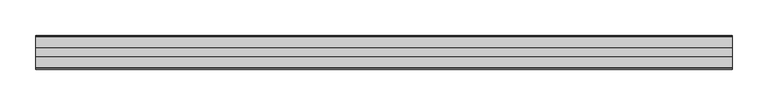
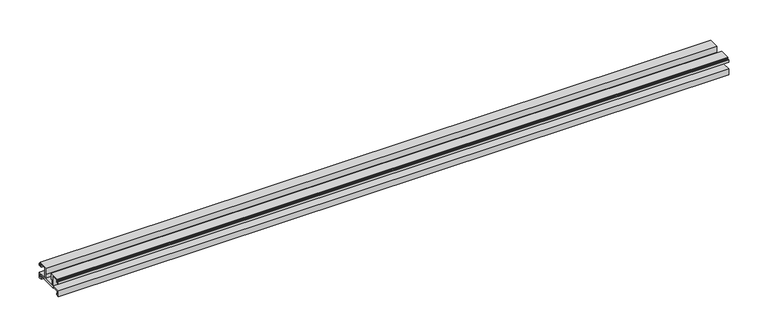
"""IFC4 building model written with IfcOpenShell, lengths in millimetres: proxy geometry, Weiku - Montante - Acoplamento vidro : Weiku - Montante - Acoplamento vidro."""

from ifc_helpers import new_model, si_unit, frame, origin, place, context, project, spatial, polyline, outline, extrude, source, transform, mapped, element, save


def generic_models_4d28cf37(model_context):
    return source(origin(), model_context, "Body", "SweptSolid", [
        extrude(outline(polyline([(-35.405, 5.1494), (-35.405, 6.8004), (-45.741, 6.8004), (-45.741, 2.6094), (-43.8784, 2.6094), (-43.8784, 0.0), (-47.9014508, 0.0), (-47.9014508, 8.79), (-34.946, 8.79), (-34.946, 23.3104), (-43.5397, 23.3104), (-43.5397, 19.204), (-47.9, 19.204), (-47.9, 22.8024), (-46.9264, 22.8024), (-46.9264, 20.3894), (-44.725, 20.3894), (-44.725, 23.9454), (-45.5264504, 23.9454), (-45.5264504, 25.3), (-30.4164, 25.3), (-30.4164, 16.283), (-32.4484, 16.283), (-32.4484, 8.8), (-15.4516, 8.8), (-15.4516, 16.283), (-17.4836, 16.283), (-17.4836, 25.3), (-2.3735496, 25.3), (-2.3735496, 23.9454), (-3.175, 23.9454), (-3.175, 20.3894), (-0.9736, 20.3894), (-0.9736, 22.8024), (0.0, 22.8024), (0.0, 19.204), (-4.3603, 19.204), (-4.3603, 23.3104), (-12.954, 23.3104), (-12.954, 8.79), (0.0014508, 8.79), (0.0014508, 0.0), (-4.0216, 0.0), (-4.0216, 2.6094), (-2.159, 2.6094), (-2.159, 6.8004), (-12.495, 6.8004), (-12.495, 5.1494), (-35.405, 5.1494)])), frame((-490.575, 0.0, 0.0), z_axis=(1.0, 0.0, 0.0), x_axis=(0.0, 1.0, 0.0)), (0.0, 0.0, 1.0), 981.15),
    ])


if __name__ == "__main__":
    model = new_model("IFC4")
    model_context = context("Model", 3, world=origin())
    ifc_project = project(units=[si_unit("LENGTHUNIT", "METRE", prefix="MILLI")], contexts=[model_context])
    site = spatial("IfcSite", under=ifc_project)
    building = spatial("IfcBuilding", under=site)
    placement = place(None, origin())
    generic_models_shape = generic_models_4d28cf37(model_context)
    element("IfcBuildingElementProxy", 1, Name="Weiku - Montante - Acoplamento vidro : Weiku - Montante - Acoplamento vidro", ObjectType="Weiku - Montante - Acoplamento vidro : Weiku - Montante - Acoplamento vidro", at=placement, inside=building, context=model_context, shape_type="MappedRepresentation", body=[
        mapped(generic_models_shape, transform((0.0, 0.0, 0.0), x_axis=(1.0, 0.0, 0.0), y_axis=(0.0, 1.0, 0.0), z_axis=(0.0, 0.0, 1.0))),
    ])
    save(model, "model.ifc")
